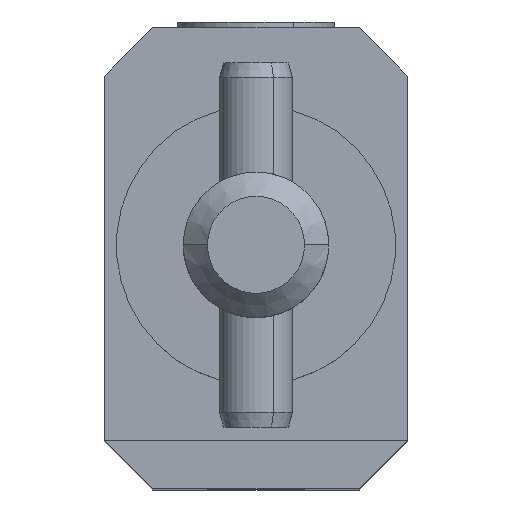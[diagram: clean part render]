
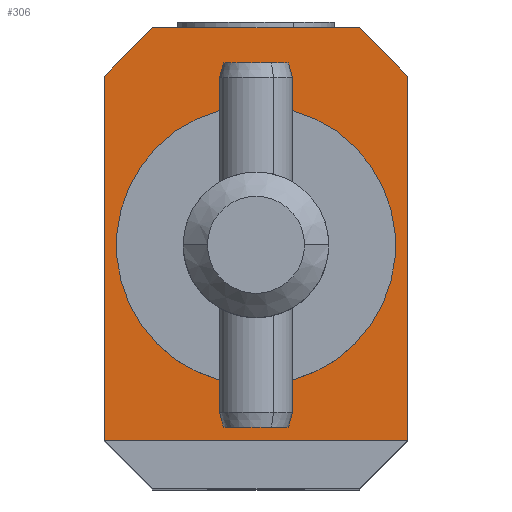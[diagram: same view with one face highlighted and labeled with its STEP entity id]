
A CAD part, top view. The second image highlights one B-rep face of the part: STEP entity #306.
In plain terms, the highlighted planar face has unit normal (0, 0, 1).
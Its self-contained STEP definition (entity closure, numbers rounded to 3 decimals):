
#306=ADVANCED_FACE('Solid.1',(#707,#708),#709,.F.);
#707=FACE_OUTER_BOUND('',#1260,.T.);
#708=FACE_BOUND('',#1261,.T.);
#709=PLANE('',#1262);
#1260=EDGE_LOOP('',(#1921,#1922,#1923,#1924,#1925,#1926));
#1261=EDGE_LOOP('',(#1927,#1928,#1929,#1930));
#1262=AXIS2_PLACEMENT_3D('',#1931,#1932,#1933);
#1921=ORIENTED_EDGE('',*,*,#3247,.T.);
#1922=ORIENTED_EDGE('',*,*,#3205,.T.);
#1923=ORIENTED_EDGE('',*,*,#3248,.F.);
#1924=ORIENTED_EDGE('',*,*,#3249,.F.);
#1925=ORIENTED_EDGE('',*,*,#3245,.F.);
#1926=ORIENTED_EDGE('',*,*,#3250,.F.);
#1927=ORIENTED_EDGE('',*,*,#3232,.T.);
#1928=ORIENTED_EDGE('',*,*,#3161,.T.);
#1929=ORIENTED_EDGE('',*,*,#3154,.T.);
#1930=ORIENTED_EDGE('',*,*,#3235,.T.);
#1931=CARTESIAN_POINT('',(0.,-16.0,43.0));
#1932=DIRECTION('',(0.0,0.0,-1.0));
#1933=DIRECTION('',(0.0,1.0,0.0));
#3154=EDGE_CURVE('',#3738,#3735,#3739,.T.);
#3161=EDGE_CURVE('',#3747,#3738,#3750,.T.);
#3205=EDGE_CURVE('',#3819,#3820,#3821,.T.);
#3232=EDGE_CURVE('',#3855,#3747,#3856,.T.);
#3235=EDGE_CURVE('',#3735,#3855,#3859,.T.);
#3245=EDGE_CURVE('',#3872,#3867,#3874,.T.);
#3247=EDGE_CURVE('',#3876,#3819,#3877,.F.);
#3248=EDGE_CURVE('',#3878,#3820,#3879,.F.);
#3249=EDGE_CURVE('',#3867,#3878,#3880,.F.);
#3250=EDGE_CURVE('',#3876,#3872,#3881,.F.);
#3735=VERTEX_POINT('',#4579);
#3738=VERTEX_POINT('',#4583);
#3739=CIRCLE('',#4584,4.188);
#3747=VERTEX_POINT('',#4627);
#3750=CIRCLE('',#4639,4.188);
#3819=VERTEX_POINT('',#4827);
#3820=VERTEX_POINT('',#4828);
#3821=LINE('',#4829,#4830);
#3855=VERTEX_POINT('',#4890);
#3856=CIRCLE('',#4891,4.188);
#3859=CIRCLE('',#4895,4.188);
#3867=VERTEX_POINT('',#4904);
#3872=VERTEX_POINT('',#4911);
#3874=LINE('',#4914,#4915);
#3876=VERTEX_POINT('',#4917);
#3877=LINE('',#4918,#4919);
#3878=VERTEX_POINT('',#4920);
#3879=LINE('',#4921,#4922);
#3880=LINE('',#4923,#4924);
#3881=LINE('',#4925,#4926);
#4579=CARTESIAN_POINT('',(4.188,0.,43.0));
#4583=CARTESIAN_POINT('',(-3.675,2.008,43.0));
#4584=AXIS2_PLACEMENT_3D('',#6274,#6275,#6276);
#4627=CARTESIAN_POINT('',(-4.188,0.,43.0));
#4639=AXIS2_PLACEMENT_3D('',#6279,#6280,#6281);
#4827=CARTESIAN_POINT('',(-12.5,-16.0,43.0));
#4828=CARTESIAN_POINT('',(12.5,-16.0,43.0));
#4829=CARTESIAN_POINT('',(0.,-16.0,43.0));
#4830=VECTOR('',#6335,1.0);
#4890=CARTESIAN_POINT('',(3.675,-2.008,43.0));
#4891=AXIS2_PLACEMENT_3D('',#6364,#6365,#6366);
#4895=AXIS2_PLACEMENT_3D('',#6368,#6369,#6370);
#4904=CARTESIAN_POINT('',(8.5,18.0,43.0));
#4911=CARTESIAN_POINT('',(-8.5,18.0,43.0));
#4914=CARTESIAN_POINT('',(0.,18.0,43.0));
#4915=VECTOR('',#6381,1.0);
#4917=CARTESIAN_POINT('',(-12.5,14.0,43.0));
#4918=CARTESIAN_POINT('',(-12.5,-1.,43.0));
#4919=VECTOR('',#6382,1.0);
#4920=CARTESIAN_POINT('',(12.5,14.0,43.0));
#4921=CARTESIAN_POINT('',(12.5,-1.,43.0));
#4922=VECTOR('',#6383,1.0);
#4923=CARTESIAN_POINT('',(10.5,16.0,43.0));
#4924=VECTOR('',#6384,1.0);
#4925=CARTESIAN_POINT('',(-10.5,16.0,43.0));
#4926=VECTOR('',#6385,1.0);
#6274=CARTESIAN_POINT('',(0.,0.,43.0));
#6275=DIRECTION('',(0.0,0.0,-1.0));
#6276=DIRECTION('',(0.0,1.0,0.0));
#6279=CARTESIAN_POINT('',(0.,0.,43.0));
#6280=DIRECTION('',(0.0,0.0,-1.0));
#6281=DIRECTION('',(0.0,1.0,0.0));
#6335=DIRECTION('',(1.0,0.0,0.0));
#6364=CARTESIAN_POINT('',(0.,0.,43.0));
#6365=DIRECTION('',(0.0,0.0,-1.0));
#6366=DIRECTION('',(0.0,1.0,0.0));
#6368=CARTESIAN_POINT('',(0.,0.,43.0));
#6369=DIRECTION('',(0.0,0.0,-1.0));
#6370=DIRECTION('',(0.0,1.0,0.0));
#6381=DIRECTION('',(1.0,0.0,0.0));
#6382=DIRECTION('',(0.0,1.0,0.0));
#6383=DIRECTION('',(0.0,1.0,0.0));
#6384=DIRECTION('',(-0.707,0.707,0.0));
#6385=DIRECTION('',(-0.707,-0.707,0.0));
